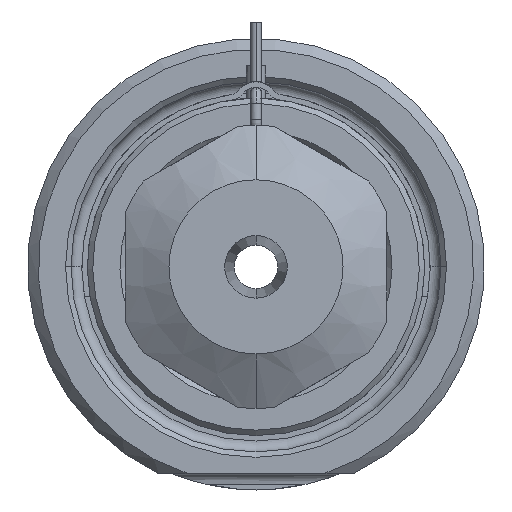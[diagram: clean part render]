
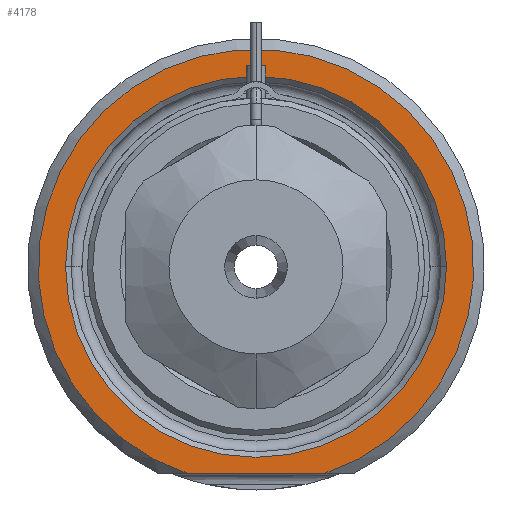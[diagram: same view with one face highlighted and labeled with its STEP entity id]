
A CAD part, front view. The second image highlights one B-rep face of the part: STEP entity #4178.
In plain terms, the highlighted planar face has unit normal (0, -1, 0).
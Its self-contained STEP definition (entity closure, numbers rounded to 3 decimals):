
#640=CARTESIAN_POINT('',(0.,0.,0.));
#641=DIRECTION('',(0.,-1.,0.));
#642=DIRECTION('',(0.312,0.,-0.95));
#643=AXIS2_PLACEMENT_3D('',#640,#641,#642);
#664=DIRECTION('',(1.,0.,0.));
#665=VECTOR('',#664,12.49);
#666=CARTESIAN_POINT('',(-6.245,0.,-19.));
#667=LINE('',#666,#665);
#668=CARTESIAN_POINT('',(0.,0.,0.));
#669=DIRECTION('',(0.,1.,0.));
#670=DIRECTION('',(-1.,0.,0.));
#671=AXIS2_PLACEMENT_3D('',#668,#669,#670);
#673=CARTESIAN_POINT('',(0.,0.,0.));
#674=DIRECTION('',(0.,1.,0.));
#675=DIRECTION('',(1.,0.,0.));
#676=AXIS2_PLACEMENT_3D('',#673,#674,#675);
#2767=CARTESIAN_POINT('',(-17.5,0.,0.));
#2768=CARTESIAN_POINT('',(17.5,0.,0.));
#2769=VERTEX_POINT('',#2767);
#2770=VERTEX_POINT('',#2768);
#2825=CARTESIAN_POINT('',(-6.245,0.,-19.));
#2826=CARTESIAN_POINT('',(6.245,0.,-19.));
#2827=VERTEX_POINT('',#2825);
#2828=VERTEX_POINT('',#2826);
#4163=CARTESIAN_POINT('',(0.,0.,0.));
#4164=DIRECTION('',(0.,-1.,0.));
#4165=DIRECTION('',(1.,0.,0.));
#4166=AXIS2_PLACEMENT_3D('',#4163,#4164,#4165);
#4167=PLANE('',#4166);
#4168=ORIENTED_EDGE('',*,*,#4095,.F.);
#4169=ORIENTED_EDGE('',*,*,#4155,.F.);
#4170=EDGE_LOOP('',(#4168,#4169));
#4171=FACE_OUTER_BOUND('',#4170,.F.);
#4173=ORIENTED_EDGE('',*,*,#4172,.F.);
#4175=ORIENTED_EDGE('',*,*,#4174,.F.);
#4176=EDGE_LOOP('',(#4173,#4175));
#4177=FACE_BOUND('',#4176,.F.);
#4178=ADVANCED_FACE('',(#4171,#4177),#4167,.T.);
#644=CIRCLE('',#643,20.);
#672=CIRCLE('',#671,17.5);
#677=CIRCLE('',#676,17.5);
#4095=EDGE_CURVE('',#2827,#2828,#667,.T.);
#4155=EDGE_CURVE('',#2828,#2827,#644,.T.);
#4172=EDGE_CURVE('',#2769,#2770,#672,.T.);
#4174=EDGE_CURVE('',#2770,#2769,#677,.T.);
